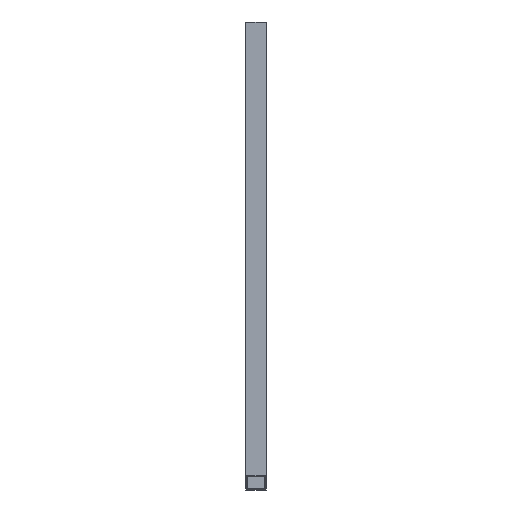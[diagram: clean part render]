
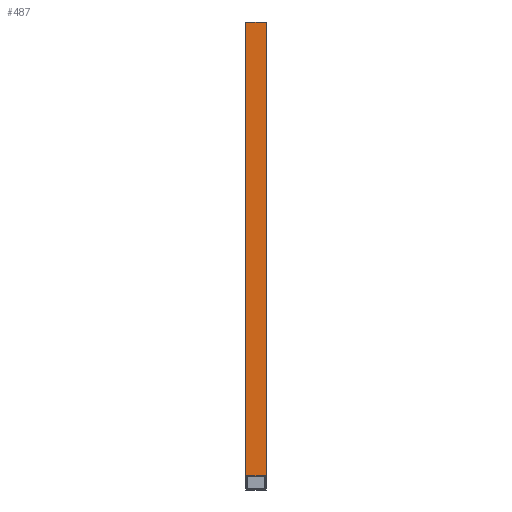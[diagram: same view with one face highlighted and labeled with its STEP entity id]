
A CAD part, left-side view. The second image highlights one B-rep face of the part: STEP entity #487.
In plain terms, the highlighted planar face has unit normal (-1, 0, 0).
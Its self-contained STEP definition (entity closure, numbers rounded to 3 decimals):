
#22 = VERTEX_POINT('',#23);
#23 = CARTESIAN_POINT('',(-25.,-25.,17.391));
#32 = PLANE('',#33);
#33 = AXIS2_PLACEMENT_3D('',#34,#35,#36);
#34 = CARTESIAN_POINT('',(-25.,-25.,-20.));
#35 = DIRECTION('',(0.,1.,0.));
#36 = DIRECTION('',(1.,0.,0.));
#43 = PLANE('',#44);
#44 = AXIS2_PLACEMENT_3D('',#45,#46,#47);
#45 = CARTESIAN_POINT('',(0.,0.,0.));
#46 = DIRECTION('',(0.571,0.,0.821));
#47 = DIRECTION('',(0.821,0.,-0.571));
#54 = EDGE_CURVE('',#22,#55,#57,.T.);
#55 = VERTEX_POINT('',#56);
#56 = CARTESIAN_POINT('',(-25.,-25.,1127.666));
#57 = SURFACE_CURVE('',#58,(#62,#69),.PCURVE_S1.);
#58 = LINE('',#59,#60);
#59 = CARTESIAN_POINT('',(-25.,-25.,-20.));
#60 = VECTOR('',#61,1.);
#61 = DIRECTION('',(0.,0.,1.));
#62 = PCURVE('',#32,#63);
#63 = DEFINITIONAL_REPRESENTATION('',(#64),#68);
#64 = LINE('',#65,#66);
#65 = CARTESIAN_POINT('',(0.,0.));
#66 = VECTOR('',#67,1.);
#67 = DIRECTION('',(0.,-1.));
#68 = ( GEOMETRIC_REPRESENTATION_CONTEXT(2) 
PARAMETRIC_REPRESENTATION_CONTEXT() REPRESENTATION_CONTEXT('2D SPACE',''
  ) );
#69 = PCURVE('',#70,#75);
#70 = PLANE('',#71);
#71 = AXIS2_PLACEMENT_3D('',#72,#73,#74);
#72 = CARTESIAN_POINT('',(-25.,25.,-20.));
#73 = DIRECTION('',(1.,0.,-0.));
#74 = DIRECTION('',(0.,-1.,0.));
#75 = DEFINITIONAL_REPRESENTATION('',(#76),#80);
#76 = LINE('',#77,#78);
#77 = CARTESIAN_POINT('',(50.,0.));
#78 = VECTOR('',#79,1.);
#79 = DIRECTION('',(0.,-1.));
#80 = ( GEOMETRIC_REPRESENTATION_CONTEXT(2) 
PARAMETRIC_REPRESENTATION_CONTEXT() REPRESENTATION_CONTEXT('2D SPACE',''
  ) );
#97 = PLANE('',#98);
#98 = AXIS2_PLACEMENT_3D('',#99,#100,#101);
#99 = CARTESIAN_POINT('',(520.484,-0.,748.201));
#100 = DIRECTION('',(-0.571,0.,-0.821));
#101 = DIRECTION('',(-0.821,0.,0.571));
#137 = EDGE_CURVE('',#138,#22,#140,.T.);
#138 = VERTEX_POINT('',#139);
#139 = CARTESIAN_POINT('',(-25.,25.,17.391));
#140 = SURFACE_CURVE('',#141,(#145,#151),.PCURVE_S1.);
#141 = LINE('',#142,#143);
#142 = CARTESIAN_POINT('',(-25.,12.5,17.391));
#143 = VECTOR('',#144,1.);
#144 = DIRECTION('',(0.,-1.,0.));
#145 = PCURVE('',#43,#146);
#146 = DEFINITIONAL_REPRESENTATION('',(#147),#150);
#147 = B_SPLINE_CURVE_WITH_KNOTS('',1,(#148,#149),.UNSPECIFIED.,.F.,.F.,
  (2,2),(-12.5,37.5),.PIECEWISE_BEZIER_KNOTS.);
#148 = CARTESIAN_POINT('',(-30.454,25.));
#149 = CARTESIAN_POINT('',(-30.454,-25.));
#150 = ( GEOMETRIC_REPRESENTATION_CONTEXT(2) 
PARAMETRIC_REPRESENTATION_CONTEXT() REPRESENTATION_CONTEXT('2D SPACE',''
  ) );
#151 = PCURVE('',#70,#152);
#152 = DEFINITIONAL_REPRESENTATION('',(#153),#156);
#153 = B_SPLINE_CURVE_WITH_KNOTS('',1,(#154,#155),.UNSPECIFIED.,.F.,.F.,
  (2,2),(-12.5,37.5),.PIECEWISE_BEZIER_KNOTS.);
#154 = CARTESIAN_POINT('',(0.,-37.391));
#155 = CARTESIAN_POINT('',(50.,-37.391));
#156 = ( GEOMETRIC_REPRESENTATION_CONTEXT(2) 
PARAMETRIC_REPRESENTATION_CONTEXT() REPRESENTATION_CONTEXT('2D SPACE',''
  ) );
#193 = PLANE('',#194);
#194 = AXIS2_PLACEMENT_3D('',#195,#196,#197);
#195 = CARTESIAN_POINT('',(25.,25.,-20.));
#196 = DIRECTION('',(0.,-1.,0.));
#197 = DIRECTION('',(-1.,0.,0.));
#362 = EDGE_CURVE('',#55,#363,#365,.T.);
#363 = VERTEX_POINT('',#364);
#364 = CARTESIAN_POINT('',(-25.,25.,1127.666));
#365 = SURFACE_CURVE('',#366,(#370,#376),.PCURVE_S1.);
#366 = LINE('',#367,#368);
#367 = CARTESIAN_POINT('',(-25.,12.5,1127.666));
#368 = VECTOR('',#369,1.);
#369 = DIRECTION('',(0.,1.,0.));
#370 = PCURVE('',#97,#371);
#371 = DEFINITIONAL_REPRESENTATION('',(#372),#375);
#372 = B_SPLINE_CURVE_WITH_KNOTS('',1,(#373,#374),.UNSPECIFIED.,.F.,.F.,
  (2,2),(-37.5,12.5),.PIECEWISE_BEZIER_KNOTS.);
#373 = CARTESIAN_POINT('',(664.49,-25.));
#374 = CARTESIAN_POINT('',(664.49,25.));
#375 = ( GEOMETRIC_REPRESENTATION_CONTEXT(2) 
PARAMETRIC_REPRESENTATION_CONTEXT() REPRESENTATION_CONTEXT('2D SPACE',''
  ) );
#376 = PCURVE('',#70,#377);
#377 = DEFINITIONAL_REPRESENTATION('',(#378),#381);
#378 = B_SPLINE_CURVE_WITH_KNOTS('',1,(#379,#380),.UNSPECIFIED.,.F.,.F.,
  (2,2),(-37.5,12.5),.PIECEWISE_BEZIER_KNOTS.);
#379 = CARTESIAN_POINT('',(50.,-1147.666));
#380 = CARTESIAN_POINT('',(0.,-1147.666));
#381 = ( GEOMETRIC_REPRESENTATION_CONTEXT(2) 
PARAMETRIC_REPRESENTATION_CONTEXT() REPRESENTATION_CONTEXT('2D SPACE',''
  ) );
#487 = ADVANCED_FACE('',(#488),#70,.F.);
#488 = FACE_BOUND('',#489,.F.);
#489 = EDGE_LOOP('',(#490,#491,#512,#513));
#490 = ORIENTED_EDGE('',*,*,#137,.F.);
#491 = ORIENTED_EDGE('',*,*,#492,.T.);
#492 = EDGE_CURVE('',#138,#363,#493,.T.);
#493 = SURFACE_CURVE('',#494,(#498,#505),.PCURVE_S1.);
#494 = LINE('',#495,#496);
#495 = CARTESIAN_POINT('',(-25.,25.,-20.));
#496 = VECTOR('',#497,1.);
#497 = DIRECTION('',(0.,0.,1.));
#498 = PCURVE('',#70,#499);
#499 = DEFINITIONAL_REPRESENTATION('',(#500),#504);
#500 = LINE('',#501,#502);
#501 = CARTESIAN_POINT('',(0.,0.));
#502 = VECTOR('',#503,1.);
#503 = DIRECTION('',(0.,-1.));
#504 = ( GEOMETRIC_REPRESENTATION_CONTEXT(2) 
PARAMETRIC_REPRESENTATION_CONTEXT() REPRESENTATION_CONTEXT('2D SPACE',''
  ) );
#505 = PCURVE('',#193,#506);
#506 = DEFINITIONAL_REPRESENTATION('',(#507),#511);
#507 = LINE('',#508,#509);
#508 = CARTESIAN_POINT('',(50.,0.));
#509 = VECTOR('',#510,1.);
#510 = DIRECTION('',(0.,-1.));
#511 = ( GEOMETRIC_REPRESENTATION_CONTEXT(2) 
PARAMETRIC_REPRESENTATION_CONTEXT() REPRESENTATION_CONTEXT('2D SPACE',''
  ) );
#512 = ORIENTED_EDGE('',*,*,#362,.F.);
#513 = ORIENTED_EDGE('',*,*,#54,.F.);
